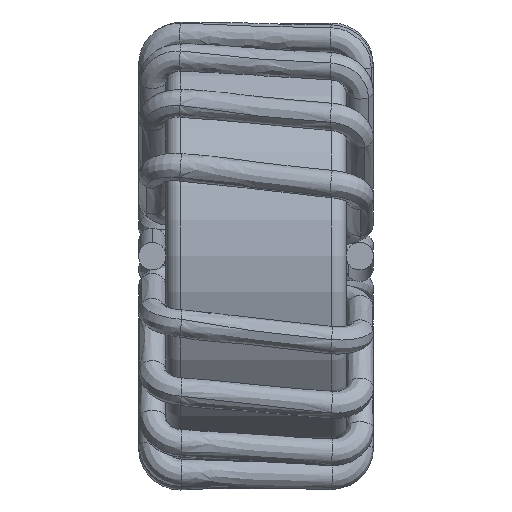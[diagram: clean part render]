
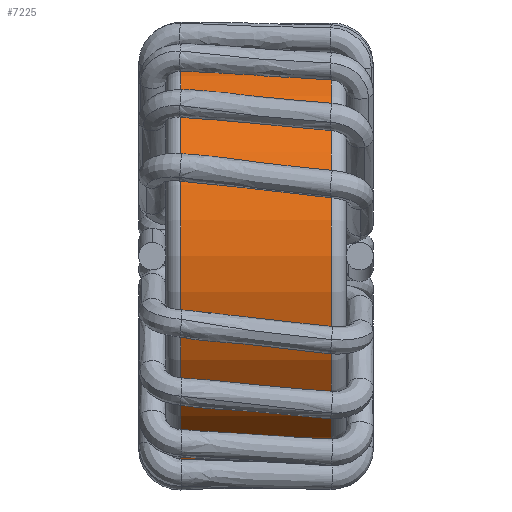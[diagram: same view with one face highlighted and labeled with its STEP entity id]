
A CAD part, left-side view. The second image highlights one B-rep face of the part: STEP entity #7225.
In plain terms, the highlighted cylindrical face has radius 13.85 mm (diameter 27.7 mm), a partial arc.
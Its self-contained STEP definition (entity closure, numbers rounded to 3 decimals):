
#1373 = DIRECTION ( 'NONE',  ( 0., -1., 0. ) ) ;
#3590 = VECTOR ( 'NONE', #1373, 1000. ) ;
#3596 = ORIENTED_EDGE ( 'NONE', *, *, #16550, .T. ) ;
#4889 = CIRCLE ( 'NONE', #19556, 13.85 ) ;
#5596 = AXIS2_PLACEMENT_3D ( 'NONE', #18667, #28667, #29182 ) ;
#6381 = CARTESIAN_POINT ( 'NONE',  ( 40.511, 23.7, -13.903 ) ) ;
#6487 = VERTEX_POINT ( 'NONE', #19820 ) ;
#7215 = DIRECTION ( 'NONE',  ( 0., 1., 0. ) ) ;
#7225 = ADVANCED_FACE ( 'NONE', ( #13303 ), #29434, .T. ) ;
#7332 = ORIENTED_EDGE ( 'NONE', *, *, #28495, .T. ) ;
#9258 = CARTESIAN_POINT ( 'NONE',  ( 40.511, 22.7, -0.053 ) ) ;
#11498 = DIRECTION ( 'NONE',  ( 0., 0., 1. ) ) ;
#13137 = ORIENTED_EDGE ( 'NONE', *, *, #26865, .T. ) ;
#13303 = FACE_OUTER_BOUND ( 'NONE', #18943, .T. ) ;
#14164 = DIRECTION ( 'NONE',  ( 0., -1., 0. ) ) ;
#14281 = AXIS2_PLACEMENT_3D ( 'NONE', #9258, #14164, #11498 ) ;
#14380 = CARTESIAN_POINT ( 'NONE',  ( 40.511, 23.7, 13.797 ) ) ;
#15825 = LINE ( 'NONE', #6381, #3590 ) ;
#16180 = VERTEX_POINT ( 'NONE', #26693 ) ;
#16550 = EDGE_CURVE ( 'NONE', #16180, #26958, #4889, .T. ) ;
#16711 = CARTESIAN_POINT ( 'NONE',  ( 40.511, 12.71, 13.797 ) ) ;
#18667 = CARTESIAN_POINT ( 'NONE',  ( 40.511, 23.7, -0.053 ) ) ;
#18943 = EDGE_LOOP ( 'NONE', ( #22367, #13137, #7332, #3596 ) ) ;
#18997 = DIRECTION ( 'NONE',  ( 0., 0., 1. ) ) ;
#19556 = AXIS2_PLACEMENT_3D ( 'NONE', #29301, #7215, #18997 ) ;
#19820 = CARTESIAN_POINT ( 'NONE',  ( 40.511, 22.7, 13.797 ) ) ;
#22367 = ORIENTED_EDGE ( 'NONE', *, *, #29697, .F. ) ;
#24252 = DIRECTION ( 'NONE',  ( 0., -1., 0. ) ) ;
#26693 = CARTESIAN_POINT ( 'NONE',  ( 40.511, 12.71, -13.903 ) ) ;
#26865 = EDGE_CURVE ( 'NONE', #6487, #29437, #30459, .T. ) ;
#26958 = VERTEX_POINT ( 'NONE', #16711 ) ;
#27293 = VECTOR ( 'NONE', #24252, 1000. ) ;
#28495 = EDGE_CURVE ( 'NONE', #29437, #16180, #15825, .T. ) ;
#28667 = DIRECTION ( 'NONE',  ( 0., -1., 0. ) ) ;
#29182 = DIRECTION ( 'NONE',  ( 0., 0., -1. ) ) ;
#29301 = CARTESIAN_POINT ( 'NONE',  ( 40.511, 12.71, -0.053 ) ) ;
#29336 = CARTESIAN_POINT ( 'NONE',  ( 40.511, 22.7, -13.903 ) ) ;
#29434 = CYLINDRICAL_SURFACE ( 'NONE', #5596, 13.85 ) ;
#29437 = VERTEX_POINT ( 'NONE', #29336 ) ;
#29697 = EDGE_CURVE ( 'NONE', #6487, #26958, #31098, .T. ) ;
#30459 = CIRCLE ( 'NONE', #14281, 13.85 ) ;
#31098 = LINE ( 'NONE', #14380, #27293 ) ;
